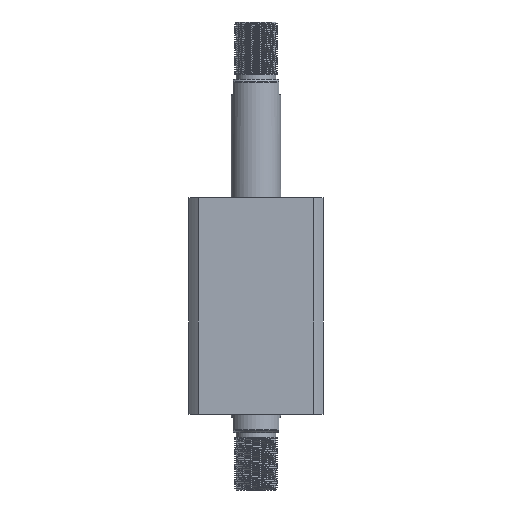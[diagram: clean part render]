
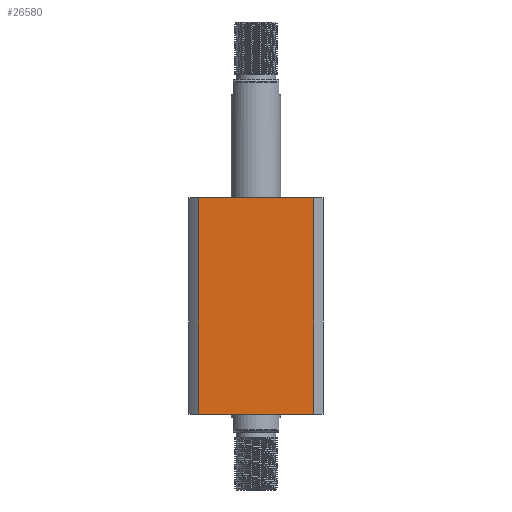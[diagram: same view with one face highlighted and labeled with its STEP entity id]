
A CAD part, front view. The second image highlights one B-rep face of the part: STEP entity #26580.
In plain terms, the highlighted planar face has unit normal (0, -1, 0).
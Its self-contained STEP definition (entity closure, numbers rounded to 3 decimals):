
#25 = VERTEX_POINT ( 'NONE', #11651 ) ;
#1035 = DIRECTION ( 'NONE',  ( 0., 1., 0. ) ) ;
#2396 = LINE ( 'NONE', #23097, #12944 ) ;
#2584 = FACE_OUTER_BOUND ( 'NONE', #25383, .T. ) ;
#3252 = CARTESIAN_POINT ( 'NONE',  ( 40.435, -47., 152. ) ) ;
#3306 = DIRECTION ( 'NONE',  ( 1., 0., 0. ) ) ;
#4308 = EDGE_CURVE ( 'NONE', #25, #24529, #12018, .T. ) ;
#4547 = VECTOR ( 'NONE', #11389, 1000. ) ;
#5515 = LINE ( 'NONE', #15955, #22446 ) ;
#5750 = AXIS2_PLACEMENT_3D ( 'NONE', #26575, #1035, #15882 ) ;
#7237 = VECTOR ( 'NONE', #23973, 1000. ) ;
#7476 = EDGE_CURVE ( 'NONE', #12124, #25, #2396, .T. ) ;
#7788 = CARTESIAN_POINT ( 'NONE',  ( 40.435, -47., 0. ) ) ;
#8200 = DIRECTION ( 'NONE',  ( 0., 0., 1. ) ) ;
#8403 = CARTESIAN_POINT ( 'NONE',  ( -40.435, -47., 0. ) ) ;
#11139 = CARTESIAN_POINT ( 'NONE',  ( 40.435, -47., 300. ) ) ;
#11389 = DIRECTION ( 'NONE',  ( 1., 0., 0. ) ) ;
#11651 = CARTESIAN_POINT ( 'NONE',  ( -40.435, -47., 152. ) ) ;
#12018 = LINE ( 'NONE', #13566, #4547 ) ;
#12124 = VERTEX_POINT ( 'NONE', #8403 ) ;
#12421 = ORIENTED_EDGE ( 'NONE', *, *, #13462, .T. ) ;
#12944 = VECTOR ( 'NONE', #8200, 1000. ) ;
#13462 = EDGE_CURVE ( 'NONE', #12124, #22267, #5515, .T. ) ;
#13566 = CARTESIAN_POINT ( 'NONE',  ( -47., -47., 152. ) ) ;
#14127 = LINE ( 'NONE', #11139, #7237 ) ;
#15882 = DIRECTION ( 'NONE',  ( 0., 0., 1. ) ) ;
#15891 = ORIENTED_EDGE ( 'NONE', *, *, #25681, .F. ) ;
#15955 = CARTESIAN_POINT ( 'NONE',  ( -47., -47., 0. ) ) ;
#20129 = PLANE ( 'NONE',  #5750 ) ;
#22267 = VERTEX_POINT ( 'NONE', #7788 ) ;
#22446 = VECTOR ( 'NONE', #3306, 1000. ) ;
#23097 = CARTESIAN_POINT ( 'NONE',  ( -40.435, -47., 300. ) ) ;
#23751 = ORIENTED_EDGE ( 'NONE', *, *, #4308, .F. ) ;
#23973 = DIRECTION ( 'NONE',  ( 0., 0., -1. ) ) ;
#24529 = VERTEX_POINT ( 'NONE', #3252 ) ;
#24787 = ORIENTED_EDGE ( 'NONE', *, *, #7476, .F. ) ;
#25383 = EDGE_LOOP ( 'NONE', ( #15891, #23751, #24787, #12421 ) ) ;
#25681 = EDGE_CURVE ( 'NONE', #24529, #22267, #14127, .T. ) ;
#26575 = CARTESIAN_POINT ( 'NONE',  ( -47., -47., 152. ) ) ;
#26580 = ADVANCED_FACE ( 'NONE', ( #2584 ), #20129, .F. ) ;
